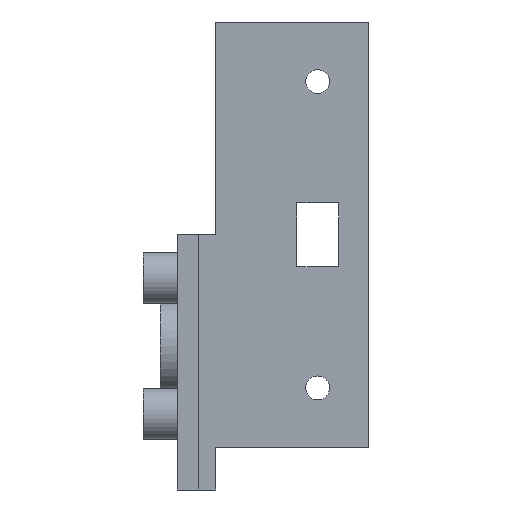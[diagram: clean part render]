
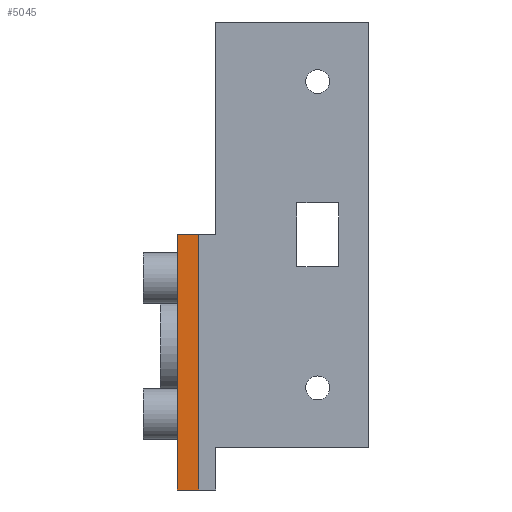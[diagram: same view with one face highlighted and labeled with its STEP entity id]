
A CAD part, left-side view. The second image highlights one B-rep face of the part: STEP entity #5045.
In plain terms, the highlighted planar face has unit normal (-1, 0, 0).
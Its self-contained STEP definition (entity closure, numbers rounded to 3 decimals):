
#3430 = PLANE('',#3431);
#3431 = AXIS2_PLACEMENT_3D('',#3432,#3433,#3434);
#3432 = CARTESIAN_POINT('',(0.,-5.5,0.));
#3433 = DIRECTION('',(0.,1.,-0.));
#3434 = DIRECTION('',(0.,0.,1.));
#4517 = PLANE('',#4518);
#4518 = AXIS2_PLACEMENT_3D('',#4519,#4520,#4521);
#4519 = CARTESIAN_POINT('',(-35.,-0.5,13.081));
#4520 = DIRECTION('',(0.,0.,-1.));
#4521 = DIRECTION('',(-1.,0.,-0.));
#4573 = PLANE('',#4574);
#4574 = AXIS2_PLACEMENT_3D('',#4575,#4576,#4577);
#4575 = CARTESIAN_POINT('',(-35.,-0.5,-16.919));
#4576 = DIRECTION('',(0.,0.,-1.));
#4577 = DIRECTION('',(-1.,0.,-0.));
#4740 = VERTEX_POINT('',#4741);
#4741 = CARTESIAN_POINT('',(-35.,-10.,-16.919));
#4755 = PLANE('',#4756);
#4756 = AXIS2_PLACEMENT_3D('',#4757,#4758,#4759);
#4757 = CARTESIAN_POINT('',(0.,-10.,0.));
#4758 = DIRECTION('',(0.,-1.,0.));
#4759 = DIRECTION('',(0.,0.,-1.));
#4767 = EDGE_CURVE('',#4768,#4740,#4770,.T.);
#4768 = VERTEX_POINT('',#4769);
#4769 = CARTESIAN_POINT('',(-35.,-5.5,-16.919));
#4770 = SURFACE_CURVE('',#4771,(#4775,#4782),.PCURVE_S1.);
#4771 = LINE('',#4772,#4773);
#4772 = CARTESIAN_POINT('',(-35.,-0.5,-16.919));
#4773 = VECTOR('',#4774,1.);
#4774 = DIRECTION('',(-0.,-1.,-0.));
#4775 = PCURVE('',#4573,#4776);
#4776 = DEFINITIONAL_REPRESENTATION('',(#4777),#4781);
#4777 = LINE('',#4778,#4779);
#4778 = CARTESIAN_POINT('',(0.,0.));
#4779 = VECTOR('',#4780,1.);
#4780 = DIRECTION('',(0.,-1.));
#4781 = ( GEOMETRIC_REPRESENTATION_CONTEXT(2) 
PARAMETRIC_REPRESENTATION_CONTEXT() REPRESENTATION_CONTEXT('2D SPACE',''
  ) );
#4782 = PCURVE('',#4783,#4788);
#4783 = PLANE('',#4784);
#4784 = AXIS2_PLACEMENT_3D('',#4785,#4786,#4787);
#4785 = CARTESIAN_POINT('',(-35.,-0.5,13.081));
#4786 = DIRECTION('',(-1.,0.,0.));
#4787 = DIRECTION('',(0.,0.,1.));
#4788 = DEFINITIONAL_REPRESENTATION('',(#4789),#4793);
#4789 = LINE('',#4790,#4791);
#4790 = CARTESIAN_POINT('',(-30.,0.));
#4791 = VECTOR('',#4792,1.);
#4792 = DIRECTION('',(0.,-1.));
#4793 = ( GEOMETRIC_REPRESENTATION_CONTEXT(2) 
PARAMETRIC_REPRESENTATION_CONTEXT() REPRESENTATION_CONTEXT('2D SPACE',''
  ) );
#4866 = VERTEX_POINT('',#4867);
#4867 = CARTESIAN_POINT('',(-35.,-10.,13.081));
#4956 = VERTEX_POINT('',#4957);
#4957 = CARTESIAN_POINT('',(-35.,-5.5,13.081));
#4978 = EDGE_CURVE('',#4956,#4866,#4979,.T.);
#4979 = SURFACE_CURVE('',#4980,(#4984,#4991),.PCURVE_S1.);
#4980 = LINE('',#4981,#4982);
#4981 = CARTESIAN_POINT('',(-35.,-0.5,13.081));
#4982 = VECTOR('',#4983,1.);
#4983 = DIRECTION('',(-0.,-1.,-0.));
#4984 = PCURVE('',#4517,#4985);
#4985 = DEFINITIONAL_REPRESENTATION('',(#4986),#4990);
#4986 = LINE('',#4987,#4988);
#4987 = CARTESIAN_POINT('',(0.,0.));
#4988 = VECTOR('',#4989,1.);
#4989 = DIRECTION('',(0.,-1.));
#4990 = ( GEOMETRIC_REPRESENTATION_CONTEXT(2) 
PARAMETRIC_REPRESENTATION_CONTEXT() REPRESENTATION_CONTEXT('2D SPACE',''
  ) );
#4991 = PCURVE('',#4783,#4992);
#4992 = DEFINITIONAL_REPRESENTATION('',(#4993),#4997);
#4993 = LINE('',#4994,#4995);
#4994 = CARTESIAN_POINT('',(0.,0.));
#4995 = VECTOR('',#4996,1.);
#4996 = DIRECTION('',(0.,-1.));
#4997 = ( GEOMETRIC_REPRESENTATION_CONTEXT(2) 
PARAMETRIC_REPRESENTATION_CONTEXT() REPRESENTATION_CONTEXT('2D SPACE',''
  ) );
#5045 = ADVANCED_FACE('',(#5046),#4783,.T.);
#5046 = FACE_BOUND('',#5047,.T.);
#5047 = EDGE_LOOP('',(#5048,#5049,#5070,#5071));
#5048 = ORIENTED_EDGE('',*,*,#4767,.T.);
#5049 = ORIENTED_EDGE('',*,*,#5050,.F.);
#5050 = EDGE_CURVE('',#4866,#4740,#5051,.T.);
#5051 = SURFACE_CURVE('',#5052,(#5056,#5063),.PCURVE_S1.);
#5052 = LINE('',#5053,#5054);
#5053 = CARTESIAN_POINT('',(-35.,-10.,13.081));
#5054 = VECTOR('',#5055,1.);
#5055 = DIRECTION('',(0.,0.,-1.));
#5056 = PCURVE('',#4783,#5057);
#5057 = DEFINITIONAL_REPRESENTATION('',(#5058),#5062);
#5058 = LINE('',#5059,#5060);
#5059 = CARTESIAN_POINT('',(0.,-9.5));
#5060 = VECTOR('',#5061,1.);
#5061 = DIRECTION('',(-1.,0.));
#5062 = ( GEOMETRIC_REPRESENTATION_CONTEXT(2) 
PARAMETRIC_REPRESENTATION_CONTEXT() REPRESENTATION_CONTEXT('2D SPACE',''
  ) );
#5063 = PCURVE('',#4755,#5064);
#5064 = DEFINITIONAL_REPRESENTATION('',(#5065),#5069);
#5065 = LINE('',#5066,#5067);
#5066 = CARTESIAN_POINT('',(-13.081,-35.));
#5067 = VECTOR('',#5068,1.);
#5068 = DIRECTION('',(1.,0.));
#5069 = ( GEOMETRIC_REPRESENTATION_CONTEXT(2) 
PARAMETRIC_REPRESENTATION_CONTEXT() REPRESENTATION_CONTEXT('2D SPACE',''
  ) );
#5070 = ORIENTED_EDGE('',*,*,#4978,.F.);
#5071 = ORIENTED_EDGE('',*,*,#5072,.F.);
#5072 = EDGE_CURVE('',#4768,#4956,#5073,.T.);
#5073 = SURFACE_CURVE('',#5074,(#5078,#5085),.PCURVE_S1.);
#5074 = LINE('',#5075,#5076);
#5075 = CARTESIAN_POINT('',(-35.,-5.5,0.));
#5076 = VECTOR('',#5077,1.);
#5077 = DIRECTION('',(0.,0.,1.));
#5078 = PCURVE('',#4783,#5079);
#5079 = DEFINITIONAL_REPRESENTATION('',(#5080),#5084);
#5080 = LINE('',#5081,#5082);
#5081 = CARTESIAN_POINT('',(-13.081,-5.));
#5082 = VECTOR('',#5083,1.);
#5083 = DIRECTION('',(1.,0.));
#5084 = ( GEOMETRIC_REPRESENTATION_CONTEXT(2) 
PARAMETRIC_REPRESENTATION_CONTEXT() REPRESENTATION_CONTEXT('2D SPACE',''
  ) );
#5085 = PCURVE('',#3430,#5086);
#5086 = DEFINITIONAL_REPRESENTATION('',(#5087),#5091);
#5087 = LINE('',#5088,#5089);
#5088 = CARTESIAN_POINT('',(0.,-35.));
#5089 = VECTOR('',#5090,1.);
#5090 = DIRECTION('',(1.,0.));
#5091 = ( GEOMETRIC_REPRESENTATION_CONTEXT(2) 
PARAMETRIC_REPRESENTATION_CONTEXT() REPRESENTATION_CONTEXT('2D SPACE',''
  ) );
